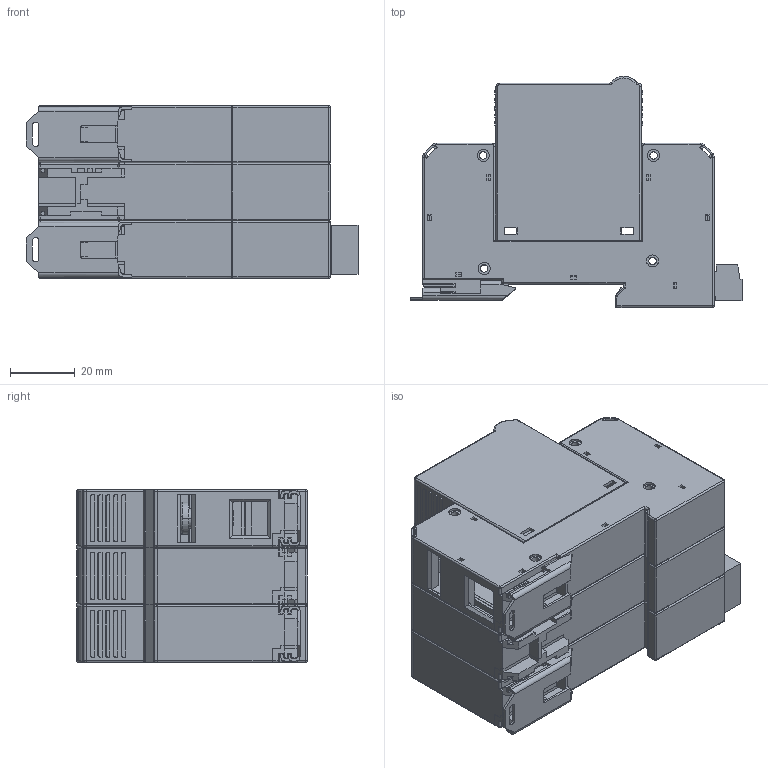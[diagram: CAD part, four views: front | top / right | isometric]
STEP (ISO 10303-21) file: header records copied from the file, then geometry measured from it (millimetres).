
FILE_DESCRIPTION(('CoCreate Modeling STEP Export'),'2;1');
FILE_NAME('3-RC.stp','2015-04-29T11:57:52',(''),(''),'CoCreate Modeling STEP processor for AP203 (Solid Model)','CoCreate Modeling 17.0B 09-Oct-2010 (C) Parametric Technology GmbH','');
FILE_SCHEMA(('CONFIG_CONTROL_DESIGN'));
Length unit declared in the file: millimetre
Products named in the file (26): Skin_Group1; p1; p2; Skin_Group2; p3; Skin_Group3; p4; p5; p6; p7; p8; p9; p10; p11; p12; p13; p14; p15; p16; p17; p18; p19; p20; p21; p22; 3-RC
Assembly tree (25 placements, depth 2):
  3-RC
    p22
    p21
    p20
    p19
    p18
    p17
    p16
    p15
    p14
    p13
    p12
    p11
    p10
    p9
    p8
    p7
    p6
    p5
    p4
    Skin_Group3
    p3
    Skin_Group2
    p2
    p1
    Skin_Group1
Bounding box: 102.5 x 71.29 x 53.4 mm (x, y, z)
Volume: 37970.2 mm3; surface area: 141701.2 mm2
Topology: 22 solids, 25 shells, 3702 faces, 10029 edges, 6502 vertices
Faces by surface type: plane 2582, cylinder 890, torus 90, cone 56, sphere 56, bspline 28
Entity records: 150324 total; most frequent: CARTESIAN_POINT 24946, ORIENTED_EDGE 20044, DIRECTION 18379, EDGE_CURVE 10025, VECTOR 7851, LINE 7851, VERTEX_POINT 6500, AXIS2_PLACEMENT_3D 5264
